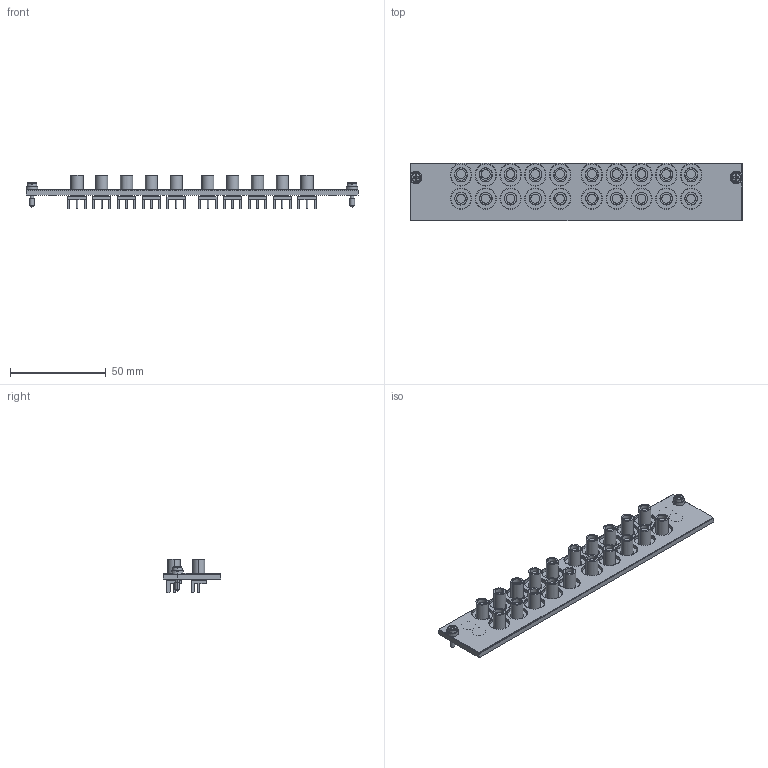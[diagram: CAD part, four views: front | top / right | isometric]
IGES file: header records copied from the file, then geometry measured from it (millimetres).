
Start section:  PTC IGES file: cu_scxi-1194.igs
Global section: file name: cu_scxi-1194.igs; native system: Pro/ENGINEER by Parametric Technology Corporation; preprocessor: 2006080; author: jjorden; organization: Unknown; date: 091130.121821; units: inch
Bounding box: 173.02 x 30.18 x 17.37 mm (x, y, z)
Surface area: 24144.4 mm2 (no closed solid volume)
Topology: 0 solids, 0 shells, 1171 faces, 5884 edges, 5880 vertices
Faces by surface type: bspline 771, revolution 400
